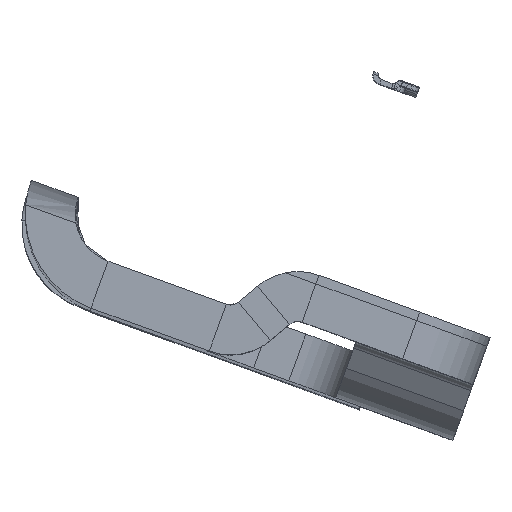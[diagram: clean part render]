
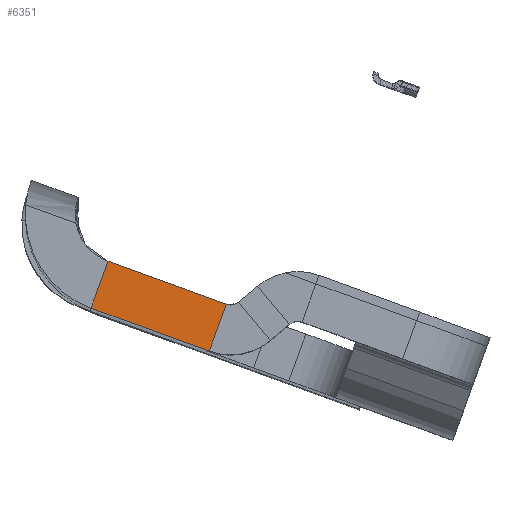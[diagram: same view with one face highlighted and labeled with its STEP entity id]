
A CAD part, top view. The second image highlights one B-rep face of the part: STEP entity #6351.
In plain terms, the highlighted free-form (B-spline) face has degree [1, 1] with [2, 2] control points.
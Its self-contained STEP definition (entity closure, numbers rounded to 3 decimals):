
#1903=VERTEX_POINT('',#10935);
#1908=VERTEX_POINT('',#10954);
#1921=VERTEX_POINT('',#10986);
#1930=VERTEX_POINT('',#11045);
#2492=LINE('',#10955,#7467);
#2501=LINE('',#10985,#7476);
#2513=LINE('',#11044,#7488);
#2514=LINE('',#11046,#7489);
#3340=EDGE_CURVE('',#1908,#1903,#2492,.T.);
#3354=EDGE_CURVE('',#1921,#1903,#2501,.T.);
#3369=EDGE_CURVE('',#1908,#1930,#2513,.T.);
#3370=EDGE_CURVE('',#1930,#1921,#2514,.T.);
#5011=ORIENTED_EDGE('',*,*,#3354,.T.);
#5012=ORIENTED_EDGE('',*,*,#3340,.F.);
#5013=ORIENTED_EDGE('',*,*,#3369,.T.);
#5014=ORIENTED_EDGE('',*,*,#3370,.T.);
#5599=EDGE_LOOP('',(#5011,#5012,#5013,#5014));
#5975=FACE_BOUND('',#5599,.T.);
#6351=ADVANCED_FACE('',(#5975),#6613,.T.);
#6613=B_SPLINE_SURFACE_WITH_KNOTS('',1,1,((#11040,#11041),(#11042,#11043)),
.UNSPECIFIED.,.F.,.F.,.U.,(2,2),(2,2),(0.,0.543),
(-0.173,0.188),.UNSPECIFIED.);
#7467=VECTOR('',#12501,1.);
#7476=VECTOR('',#12520,1.);
#7488=VECTOR('',#12536,1.);
#7489=VECTOR('',#12537,1.);
#10935=CARTESIAN_POINT('',(-0.812,-1.204,18.8));
#10954=CARTESIAN_POINT('',(-0.744,-1.016,18.8));
#10955=CARTESIAN_POINT('',(-0.744,-1.016,18.8));
#10985=CARTESIAN_POINT('',(-1.287,-1.031,18.8));
#10986=CARTESIAN_POINT('',(-1.287,-1.031,18.8));
#11040=CARTESIAN_POINT('',(-1.287,-1.204,18.8));
#11041=CARTESIAN_POINT('',(-1.287,-0.843,18.8));
#11042=CARTESIAN_POINT('',(-0.744,-1.204,18.8));
#11043=CARTESIAN_POINT('',(-0.744,-0.843,18.8));
#11044=CARTESIAN_POINT('',(-0.744,-1.016,18.8));
#11045=CARTESIAN_POINT('',(-1.218,-0.843,18.8));
#11046=CARTESIAN_POINT('',(-1.218,-0.843,18.8));
#12501=DIRECTION('',(-0.342,-0.94,0.));
#12520=DIRECTION('',(0.94,-0.342,0.));
#12536=DIRECTION('',(-0.94,0.342,0.));
#12537=DIRECTION('',(-0.342,-0.94,0.));
